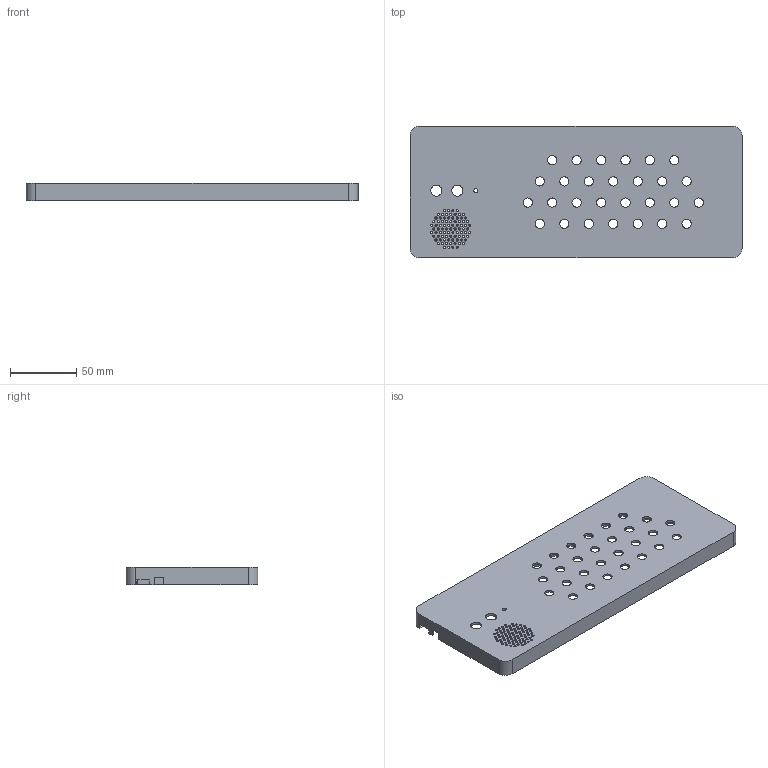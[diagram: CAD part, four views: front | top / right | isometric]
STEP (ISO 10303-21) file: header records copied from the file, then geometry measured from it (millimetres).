
FILE_DESCRIPTION(('Open CASCADE Model'),'2;1');
FILE_NAME('Open CASCADE Shape Model','2026-11-15T18:53:35',('Author'),( 'Open CASCADE'),'Open CASCADE STEP processor 7.9','Open CASCADE 7.9' ,'Unknown');
FILE_SCHEMA(('AUTOMOTIVE_DESIGN { 1 0 10303 214 1 1 1 1 }'));
Length unit declared in the file: millimetre
Products named in the file (1): Open CASCADE STEP translator 7.9 2
Bounding box: 251.3 x 99.8 x 13.2 mm (x, y, z)
Volume: 67026 mm3; surface area: 72722.8 mm2
Topology: 1 solids, 1 shells, 198 faces, 552 edges, 368 vertices
Faces by surface type: cylinder 168, plane 30
Full cylindrical faces by diameter (mm): 1.6 x89, 3.1 x1, 4.6 x4, 7 x28, 8.4 x2, 36.6 x1, 39.2 x1
Entity records: 14972 total; most frequent: CARTESIAN_POINT 4099, DIRECTION 1984, ORIENTED_EDGE 1104, PCURVE 1104, DEFINITIONAL_REPRESENTATION 1104, LINE 872, VECTOR 872, EDGE_CURVE 552
